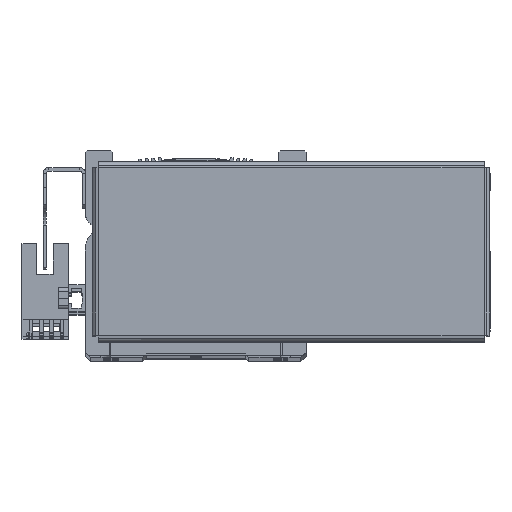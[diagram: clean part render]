
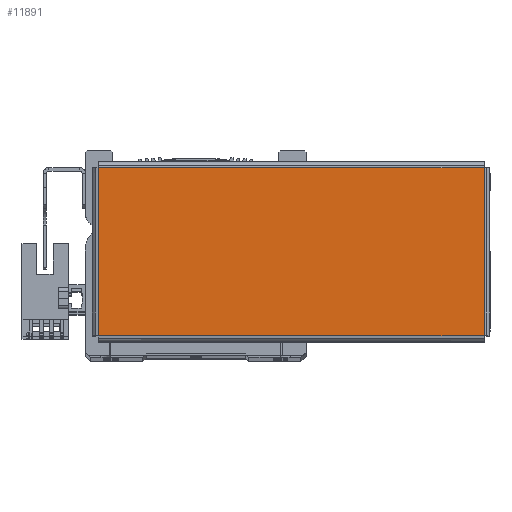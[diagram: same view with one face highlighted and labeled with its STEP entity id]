
A CAD part, top view. The second image highlights one B-rep face of the part: STEP entity #11891.
In plain terms, the highlighted planar face has unit normal (0, 0, 1) as drawn and (0, 0, -1) by its records, which use the part's own axes.
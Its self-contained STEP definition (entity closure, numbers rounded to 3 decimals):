
#2468 = EDGE_CURVE ( 'NONE', #4522, #4473, #6711, .T. ) ;
#2473 = EDGE_CURVE ( 'NONE', #4473, #4501, #6709, .T. ) ;
#2474 = EDGE_CURVE ( 'NONE', #4527, #4522, #6785, .T. ) ;
#2494 = EDGE_CURVE ( 'NONE', #4501, #4527, #6778, .T. ) ;
#3907 = CARTESIAN_POINT ( 'NONE',  ( -56.893, 24.763, -1. ) ) ;
#3911 = DIRECTION ( 'NONE',  ( 1., 0., 0. ) ) ;
#3931 = CARTESIAN_POINT ( 'NONE',  ( -56.863, -24.793, -1. ) ) ;
#3934 = DIRECTION ( 'NONE',  ( 0., -1., 0. ) ) ;
#3958 = CARTESIAN_POINT ( 'NONE',  ( 56.863, 24.793, -1. ) ) ;
#3959 = DIRECTION ( 'NONE',  ( 0., 1., 0. ) ) ;
#3998 = CARTESIAN_POINT ( 'NONE',  ( 56.893, -24.763, -1. ) ) ;
#4000 = DIRECTION ( 'NONE',  ( -1., 0., 0. ) ) ;
#4473 = VERTEX_POINT ( 'NONE', #17289 ) ;
#4501 = VERTEX_POINT ( 'NONE', #17305 ) ;
#4522 = VERTEX_POINT ( 'NONE', #17333 ) ;
#4527 = VERTEX_POINT ( 'NONE', #17338 ) ;
#6688 = VECTOR ( 'NONE', #3911, 1000. ) ;
#6709 = LINE ( 'NONE', #3958, #6786 ) ;
#6711 = LINE ( 'NONE', #3907, #6688 ) ;
#6750 = VECTOR ( 'NONE', #4000, 1000. ) ;
#6752 = VECTOR ( 'NONE', #3959, 1000. ) ;
#6778 = LINE ( 'NONE', #3998, #6750 ) ;
#6785 = LINE ( 'NONE', #3931, #6752 ) ;
#6786 = VECTOR ( 'NONE', #3934, 1000. ) ;
#11891 = ADVANCED_FACE ( 'NONE', ( #25873 ), #35693, .F. ) ;
#17289 = CARTESIAN_POINT ( 'NONE',  ( 56.863, 24.763, -1. ) ) ;
#17305 = CARTESIAN_POINT ( 'NONE',  ( 56.863, -24.763, -1. ) ) ;
#17333 = CARTESIAN_POINT ( 'NONE',  ( -56.863, 24.763, -1. ) ) ;
#17338 = CARTESIAN_POINT ( 'NONE',  ( -56.863, -24.763, -1. ) ) ;
#23294 = AXIS2_PLACEMENT_3D ( 'NONE', #35697, #35687, #35652 ) ;
#25873 = FACE_OUTER_BOUND ( 'NONE', #40671, .T. ) ;
#35652 = DIRECTION ( 'NONE',  ( 1., 0., 0. ) ) ;
#35687 = DIRECTION ( 'NONE',  ( 0., 0., 1. ) ) ;
#35693 = PLANE ( 'NONE',  #23294 ) ;
#35697 = CARTESIAN_POINT ( 'NONE',  ( 0., 0., -1. ) ) ;
#39640 = ORIENTED_EDGE ( 'NONE', *, *, #2468, .T. ) ;
#39647 = ORIENTED_EDGE ( 'NONE', *, *, #2494, .T. ) ;
#39689 = ORIENTED_EDGE ( 'NONE', *, *, #2474, .T. ) ;
#39716 = ORIENTED_EDGE ( 'NONE', *, *, #2473, .T. ) ;
#40671 = EDGE_LOOP ( 'NONE', ( #39716, #39647, #39689, #39640 ) ) ;
